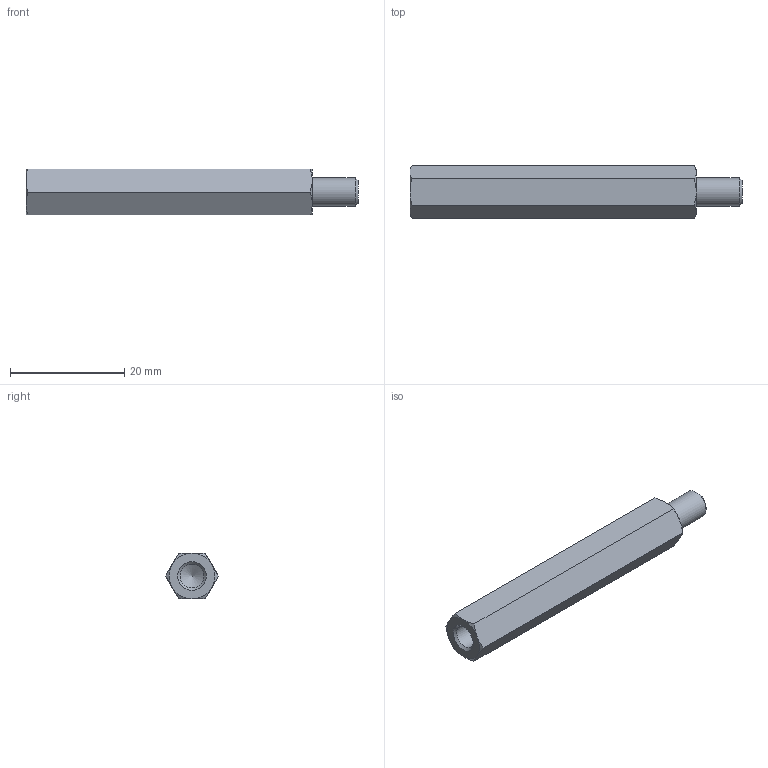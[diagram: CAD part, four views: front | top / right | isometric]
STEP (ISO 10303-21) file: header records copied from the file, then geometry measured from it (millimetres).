
FILE_DESCRIPTION( ( 'STEP AP203' ), '1' );
FILE_NAME( 'C:/Temp/Ganter_Step_05_03_2020/data/3_2/gn6220/gn6220_st/Spacer GN 6220-ST-M5-50-B.stp', '2020-03-13T05:42:45', ( 'License CC BY-ND 4.0' ), ( 'CADENAS' ), ' ', 'PARTsolutions', ' ' );
FILE_SCHEMA( ( 'CONFIG_CONTROL_DESIGN' ) );
Length unit declared in the file: millimetre
Products named in the file (1): _Spacer GN 6220-ST-M5-50-B
Bounding box: 58 x 9.24 x 8 mm (x, y, z)
Volume: 2728.1 mm3; surface area: 1795.7 mm2
Topology: 1 solids, 1 shells, 26 faces, 55 edges, 32 vertices
Faces by surface type: cone 15, plane 9, cylinder 2
Full cylindrical faces by diameter (mm): 4.134 x1, 5 x1
Entity records: 746 total; most frequent: CARTESIAN_POINT 210, DIRECTION 96, ORIENTED_EDGE 96, EDGE_CURVE 48, AXIS2_PLACEMENT_3D 45, EDGE_LOOP 32, VERTEX_POINT 31, FACE_OUTER_BOUND 28
